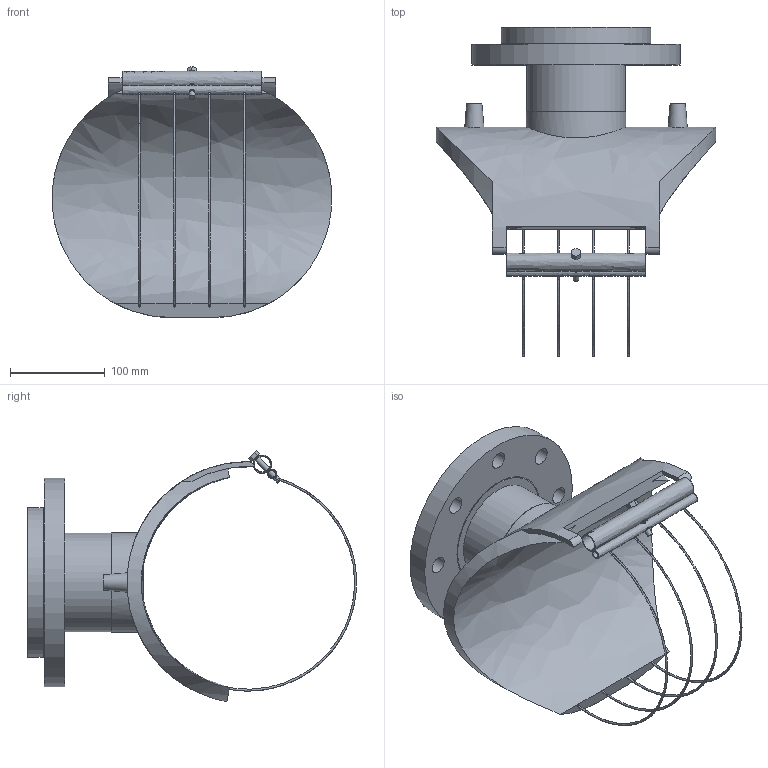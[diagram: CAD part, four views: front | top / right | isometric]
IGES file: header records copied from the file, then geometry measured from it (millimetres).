
Global section: file name: 4959X4225100T; native system: Autodesk Inventor 2019; preprocessor: unknown; author: KIM; date: 20220428.113742; units: millimetre
Bounding box: 295 x 347 x 264.82 mm (x, y, z)
Volume: 2285687.4 mm3; surface area: 394283.8 mm2
Topology: 2 solids, 2 shells, 77 faces, 235 edges, 164 vertices
Faces by surface type: bspline 77
